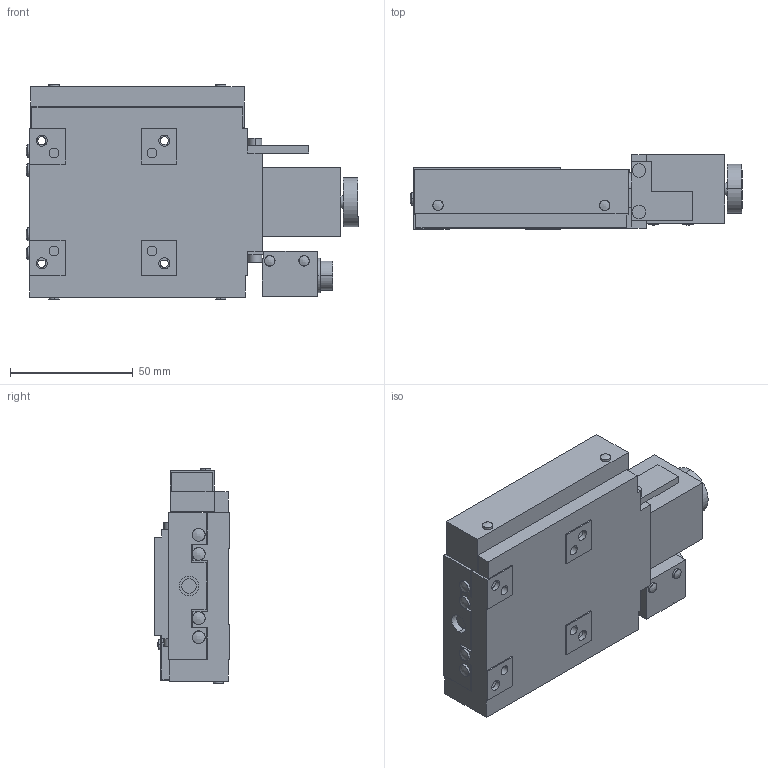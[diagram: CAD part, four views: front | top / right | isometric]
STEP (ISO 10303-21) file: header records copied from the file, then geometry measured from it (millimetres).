
FILE_DESCRIPTION (( 'STEP AP203' ), '1' );
FILE_NAME ('ALS-6012-G1M-SA.STEP', '2017-11-14T05:33:22', ( '' ), ( '' ), 'SwSTEP 2.0', 'SolidWorks 2016', '' );
FILE_SCHEMA (( 'CONFIG_CONTROL_DESIGN' ));
Length unit declared in the file: millimetre
Products named in the file (3): ALS-6012-G1M-SA-1; ALS-6012-G1M-SA-2; ALS-6012-G1M-SA
Assembly tree (2 placements, depth 2):
  ALS-6012-G1M-SA
    ALS-6012-G1M-SA-1
    ALS-6012-G1M-SA-2
Bounding box: 135.44 x 30.5 x 88.11 mm (x, y, z)
Volume: 177504.4 mm3; surface area: 63484.2 mm2
Topology: 2 solids, 3 shells, 317 faces, 777 edges, 505 vertices
Faces by surface type: plane 172, cylinder 97, cone 32, bspline 16
Entity records: 12846 total; most frequent: CARTESIAN_POINT 4858, DIRECTION 1607, ORIENTED_EDGE 1554, EDGE_CURVE 777, AXIS2_PLACEMENT_3D 558, VERTEX_POINT 505, VECTOR 491, LINE 491
